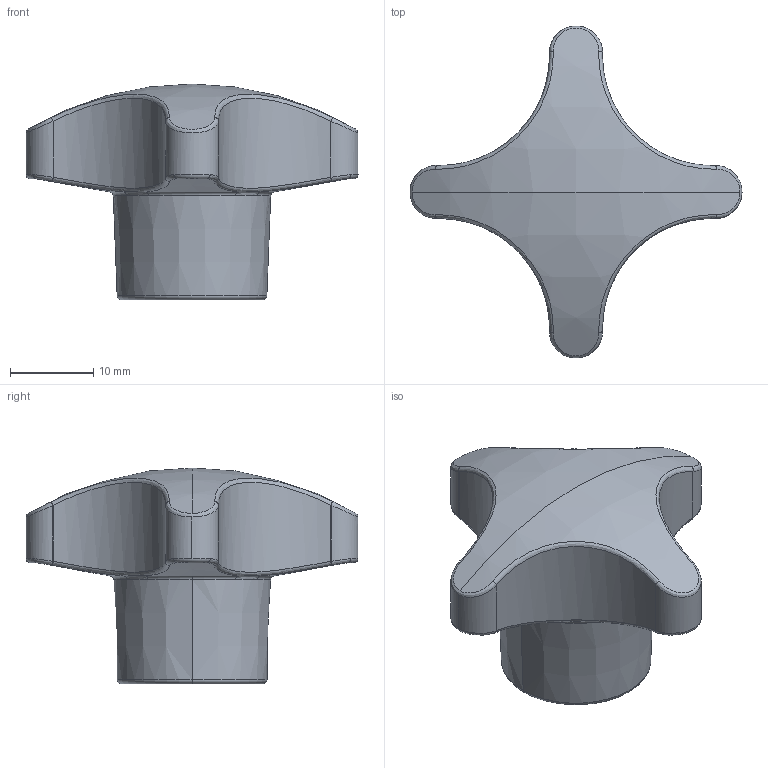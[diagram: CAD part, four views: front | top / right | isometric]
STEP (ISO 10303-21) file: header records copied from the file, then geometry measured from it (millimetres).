
FILE_DESCRIPTION (( 'STEP AP214' ), '1' );
FILE_NAME ('1121 40 302.STEP', '2010-11-26T15:45:42', ( 'Marc' ), ( '' ), 'SwSTEP 2.0', 'SolidWorks 2010', '' );
FILE_SCHEMA (( 'AUTOMOTIVE_DESIGN' ));
Length unit declared in the file: millimetre
Products named in the file (1): 1121 40 302
Bounding box: 40 x 39.99 x 26 mm (x, y, z)
Volume: 9827.6 mm3; surface area: 4587.8 mm2
Topology: 2 solids, 2 shells, 78 faces, 189 edges, 115 vertices
Faces by surface type: bspline 24, cylinder 21, torus 12, cone 11, plane 8, sphere 2
Entity records: 7439 total; most frequent: CARTESIAN_POINT 5650, ORIENTED_EDGE 374, DIRECTION 290, EDGE_CURVE 187, AXIS2_PLACEMENT_3D 131, VERTEX_POINT 115, B_SPLINE_CURVE_WITH_KNOTS 83, EDGE_LOOP 80
